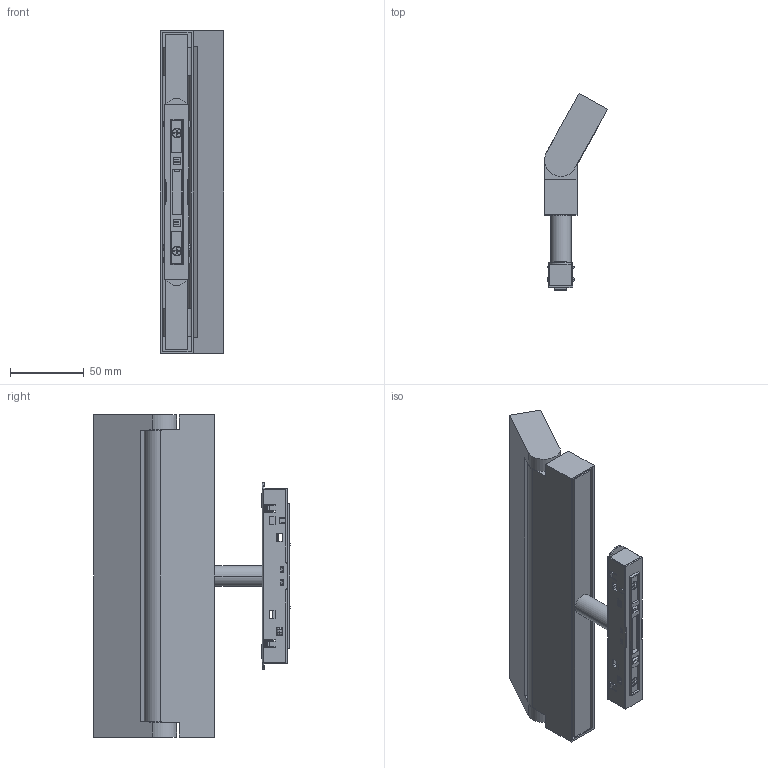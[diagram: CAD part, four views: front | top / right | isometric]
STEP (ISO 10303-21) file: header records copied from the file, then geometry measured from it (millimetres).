
FILE_DESCRIPTION((''),'2;1');
FILE_NAME('ZHEDIE_GESHAN_ASM','2022-11-10T',('Administrator'),(''),'PRO/ENGINEER BY PARAMETRIC TECHNOLOGY CORPORATION, 2015070','PRO/ENGINEER BY PARAMETRIC TECHNOLOGY CORPORATION, 2015070','');
FILE_SCHEMA(('CONFIG_CONTROL_DESIGN','SHAPE_APPEARANCE_LAYERS_GROUPS'));
Products named in the file (25): ZHIJIA_2; ZHIJIA_0_; ZHIJIA_XIAGAI; MANIFOLD_SOLID_BREP_5140_2; _________________M2_5X5; MANIFOLD_SOLID_BREP_5136_8; 03_X_T; MANIFOLD_SOLID_BREP_5139_2; MANIFOLD_SOLID_BREP_5135_2; MANIFOLD_SOLID_BREP_53625; MANIFOLD_SOLID_BREP_45179; 08-22-W1_37_ASM_ASM; MANIFOLD_SOLID_BREP_5138_2; ________________M3X6; MANIFOLD_SOLID_BREP_5134_2; 08-20-PC1_6; MANIFOLD_SOLID_BREP_5137_2; MANIFOLD_SOLID_BREP_5133_2; 20__________________________GN-_ASM; 20_CIXI_ASM; MANIFOLD_SOLID_BREP_5218; MANIFOLD_SOLID_BREP_5198; ZUJIAN_TOUJING_12_ASM; 1432LVJIAN; ZHEDIE_GESHAN_ASM
Assembly tree (27 placements, depth 5):
  ZHEDIE_GESHAN_ASM
    ZHIJIA_2
    ZHIJIA_0_
    ZHIJIA_XIAGAI
    20_CIXI_ASM
      20__________________________GN-_ASM
        MANIFOLD_SOLID_BREP_5140_2
        _________________M2_5X5  x2
        MANIFOLD_SOLID_BREP_5136_8
        03_X_T
        MANIFOLD_SOLID_BREP_5139_2
        MANIFOLD_SOLID_BREP_5135_2
        08-22-W1_37_ASM_ASM
          MANIFOLD_SOLID_BREP_53625
          MANIFOLD_SOLID_BREP_45179
        MANIFOLD_SOLID_BREP_5138_2
        ________________M3X6  x2
        MANIFOLD_SOLID_BREP_5134_2
        08-20-PC1_6
        MANIFOLD_SOLID_BREP_5137_2
        MANIFOLD_SOLID_BREP_5133_2
    ZUJIAN_TOUJING_12_ASM
      MANIFOLD_SOLID_BREP_5218
      MANIFOLD_SOLID_BREP_5198  x2
    1432LVJIAN
Bounding box: 42.63 x 133.04 x 218 mm (x, y, z)
Volume: 176344.8 mm3; surface area: 154751 mm2
Topology: 23 solids, 23 shells, 2581 faces, 6911 edges, 4447 vertices
Faces by surface type: plane 1743, cylinder 469, cone 216, bspline 89, torus 58, extrusion 6
Entity records: 82555 total; most frequent: CARTESIAN_POINT 18394, ORIENTED_EDGE 12228, DIRECTION 10946, EDGE_CURVE 6114, VECTOR 4316, LINE 4313, VERTEX_POINT 3945, AXIS2_PLACEMENT_3D 3315
